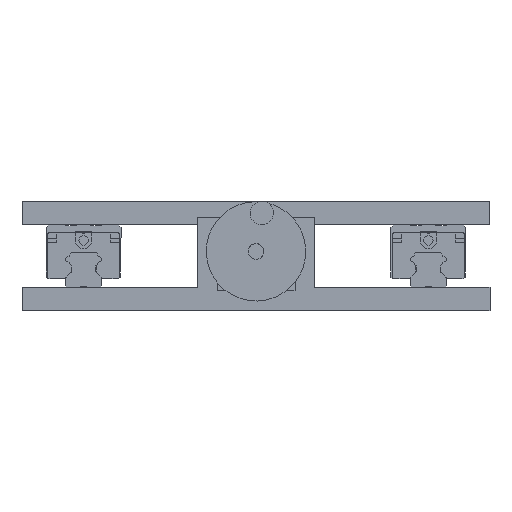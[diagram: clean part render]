
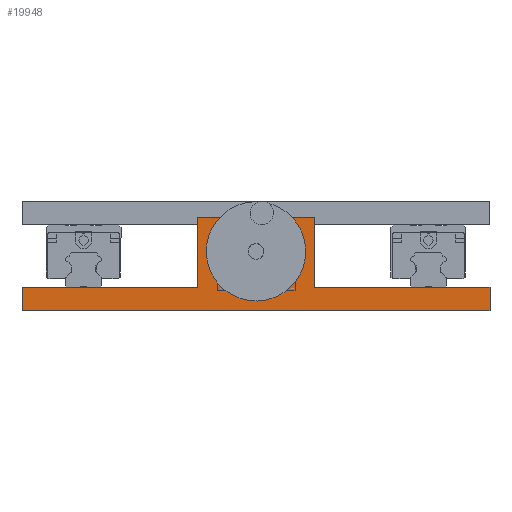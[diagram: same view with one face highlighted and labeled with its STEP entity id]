
A CAD part, front view. The second image highlights one B-rep face of the part: STEP entity #19948.
In plain terms, the highlighted planar face has unit normal (0, -1, 0).
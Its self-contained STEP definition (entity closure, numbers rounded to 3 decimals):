
#297 = CARTESIAN_POINT ( 'NONE',  ( -150., -1016.5, 15. ) ) ;
#1432 = ORIENTED_EDGE ( 'NONE', *, *, #59664, .F. ) ;
#1472 = ORIENTED_EDGE ( 'NONE', *, *, #42577, .F. ) ;
#3275 = CARTESIAN_POINT ( 'NONE',  ( 37.5, -1016.5, 60. ) ) ;
#4477 = VERTEX_POINT ( 'NONE', #50203 ) ;
#4706 = PLANE ( 'NONE',  #21758 ) ;
#4724 = CIRCLE ( 'NONE', #49998, 5. ) ;
#5728 = VERTEX_POINT ( 'NONE', #78964 ) ;
#5761 = CARTESIAN_POINT ( 'NONE',  ( 37.5, -1016.5, 60. ) ) ;
#5883 = CARTESIAN_POINT ( 'NONE',  ( -37.5, -1016.5, 60. ) ) ;
#7035 = DIRECTION ( 'NONE',  ( 1., 0., 0. ) ) ;
#9576 = LINE ( 'NONE', #80292, #50835 ) ;
#15565 = CARTESIAN_POINT ( 'NONE',  ( 0., -1016.5, 38. ) ) ;
#16400 = DIRECTION ( 'NONE',  ( 1., 0., 0. ) ) ;
#16991 = VERTEX_POINT ( 'NONE', #44823 ) ;
#17156 = DIRECTION ( 'NONE',  ( 0., 0., 1. ) ) ;
#17490 = CARTESIAN_POINT ( 'NONE',  ( 150., -1016.5, 15. ) ) ;
#17856 = DIRECTION ( 'NONE',  ( 0., 0., -1. ) ) ;
#18926 = VECTOR ( 'NONE', #82259, 1000. ) ;
#19028 = EDGE_LOOP ( 'NONE', ( #34513, #38683, #1432, #42088, #44667, #71373, #41510, #22430 ) ) ;
#19948 = ADVANCED_FACE ( 'NONE', ( #43355, #34409 ), #4706, .F. ) ;
#20740 = CARTESIAN_POINT ( 'NONE',  ( 37.5, -1016.5, 15. ) ) ;
#20975 = EDGE_CURVE ( 'NONE', #53523, #70421, #41055, .T. ) ;
#21758 = AXIS2_PLACEMENT_3D ( 'NONE', #48650, #55417, #17156 ) ;
#21808 = EDGE_CURVE ( 'NONE', #16991, #4477, #48854, .T. ) ;
#22430 = ORIENTED_EDGE ( 'NONE', *, *, #49201, .T. ) ;
#25042 = LINE ( 'NONE', #3275, #68380 ) ;
#26313 = VECTOR ( 'NONE', #7035, 1000. ) ;
#27532 = CARTESIAN_POINT ( 'NONE',  ( -150., -1016.5, 15. ) ) ;
#28511 = DIRECTION ( 'NONE',  ( 0., -1., 0. ) ) ;
#29146 = LINE ( 'NONE', #27532, #49227 ) ;
#30157 = VERTEX_POINT ( 'NONE', #17490 ) ;
#30704 = VECTOR ( 'NONE', #58443, 1000. ) ;
#32788 = EDGE_CURVE ( 'NONE', #59540, #5728, #71136, .T. ) ;
#34409 = FACE_OUTER_BOUND ( 'NONE', #19028, .T. ) ;
#34513 = ORIENTED_EDGE ( 'NONE', *, *, #32788, .T. ) ;
#34838 = AXIS2_PLACEMENT_3D ( 'NONE', #15565, #28511, #67366 ) ;
#35120 = EDGE_CURVE ( 'NONE', #65946, #39332, #29146, .T. ) ;
#38683 = ORIENTED_EDGE ( 'NONE', *, *, #76342, .F. ) ;
#39332 = VERTEX_POINT ( 'NONE', #63999 ) ;
#41055 = LINE ( 'NONE', #69610, #73274 ) ;
#41510 = ORIENTED_EDGE ( 'NONE', *, *, #35120, .F. ) ;
#42088 = ORIENTED_EDGE ( 'NONE', *, *, #52854, .F. ) ;
#42577 = EDGE_CURVE ( 'NONE', #4477, #16991, #4724, .T. ) ;
#43355 = FACE_BOUND ( 'NONE', #65188, .T. ) ;
#44667 = ORIENTED_EDGE ( 'NONE', *, *, #20975, .F. ) ;
#44823 = CARTESIAN_POINT ( 'NONE',  ( 0., -1016.5, 43. ) ) ;
#46106 = LINE ( 'NONE', #61455, #72305 ) ;
#46374 = LINE ( 'NONE', #297, #26313 ) ;
#47909 = DIRECTION ( 'NONE',  ( 0., 0., -1. ) ) ;
#48650 = CARTESIAN_POINT ( 'NONE',  ( -150., -1016.5, 15. ) ) ;
#48854 = CIRCLE ( 'NONE', #34838, 5. ) ;
#49158 = EDGE_CURVE ( 'NONE', #53523, #39332, #46106, .T. ) ;
#49201 = EDGE_CURVE ( 'NONE', #65946, #59540, #53158, .T. ) ;
#49227 = VECTOR ( 'NONE', #66644, 1000. ) ;
#49998 = AXIS2_PLACEMENT_3D ( 'NONE', #77741, #58269, #71823 ) ;
#50203 = CARTESIAN_POINT ( 'NONE',  ( 0., -1016.5, 33. ) ) ;
#50835 = VECTOR ( 'NONE', #47909, 1000. ) ;
#52854 = EDGE_CURVE ( 'NONE', #70421, #75673, #25042, .T. ) ;
#53158 = LINE ( 'NONE', #62569, #18926 ) ;
#53523 = VERTEX_POINT ( 'NONE', #5883 ) ;
#54813 = DIRECTION ( 'NONE',  ( 0., 0., -1. ) ) ;
#55417 = DIRECTION ( 'NONE',  ( 0., 1., 0. ) ) ;
#58269 = DIRECTION ( 'NONE',  ( 0., -1., 0. ) ) ;
#58443 = DIRECTION ( 'NONE',  ( 1., 0., 0. ) ) ;
#59520 = ORIENTED_EDGE ( 'NONE', *, *, #21808, .F. ) ;
#59540 = VERTEX_POINT ( 'NONE', #81914 ) ;
#59664 = EDGE_CURVE ( 'NONE', #75673, #30157, #46374, .T. ) ;
#61455 = CARTESIAN_POINT ( 'NONE',  ( -37.5, -1016.5, 60. ) ) ;
#62569 = CARTESIAN_POINT ( 'NONE',  ( -150., -1016.5, 15. ) ) ;
#63999 = CARTESIAN_POINT ( 'NONE',  ( -37.5, -1016.5, 15. ) ) ;
#65188 = EDGE_LOOP ( 'NONE', ( #59520, #1472 ) ) ;
#65946 = VERTEX_POINT ( 'NONE', #82321 ) ;
#66644 = DIRECTION ( 'NONE',  ( 1., 0., 0. ) ) ;
#67366 = DIRECTION ( 'NONE',  ( 0., 0., 1. ) ) ;
#68380 = VECTOR ( 'NONE', #54813, 1000. ) ;
#69610 = CARTESIAN_POINT ( 'NONE',  ( -37.5, -1016.5, 60. ) ) ;
#70421 = VERTEX_POINT ( 'NONE', #5761 ) ;
#70609 = CARTESIAN_POINT ( 'NONE',  ( -150., -1016.5, 0. ) ) ;
#71136 = LINE ( 'NONE', #70609, #30704 ) ;
#71373 = ORIENTED_EDGE ( 'NONE', *, *, #49158, .T. ) ;
#71823 = DIRECTION ( 'NONE',  ( 0., 0., 1. ) ) ;
#72305 = VECTOR ( 'NONE', #17856, 1000. ) ;
#73274 = VECTOR ( 'NONE', #16400, 1000. ) ;
#75673 = VERTEX_POINT ( 'NONE', #20740 ) ;
#76342 = EDGE_CURVE ( 'NONE', #30157, #5728, #9576, .T. ) ;
#77741 = CARTESIAN_POINT ( 'NONE',  ( 0., -1016.5, 38. ) ) ;
#78964 = CARTESIAN_POINT ( 'NONE',  ( 150., -1016.5, 0. ) ) ;
#80292 = CARTESIAN_POINT ( 'NONE',  ( 150., -1016.5, 15. ) ) ;
#81914 = CARTESIAN_POINT ( 'NONE',  ( -150., -1016.5, 0. ) ) ;
#82259 = DIRECTION ( 'NONE',  ( 0., 0., -1. ) ) ;
#82321 = CARTESIAN_POINT ( 'NONE',  ( -150., -1016.5, 15. ) ) ;
